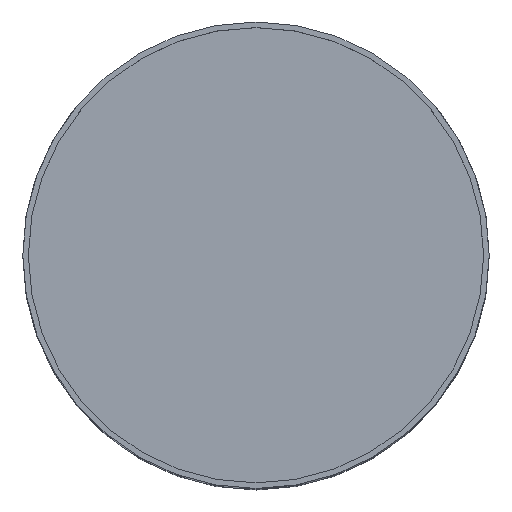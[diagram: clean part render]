
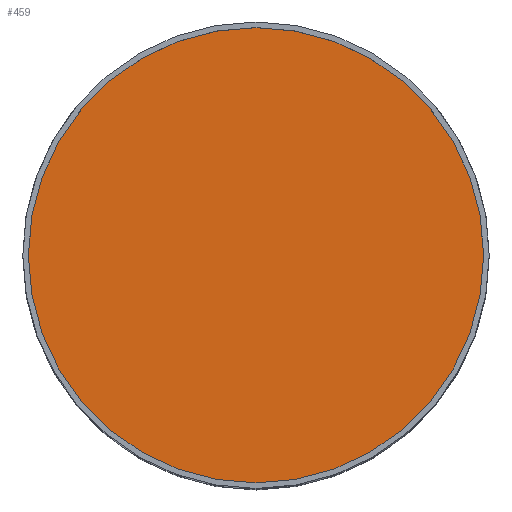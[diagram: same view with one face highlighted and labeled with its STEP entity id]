
A CAD part, top view. The second image highlights one B-rep face of the part: STEP entity #459.
In plain terms, the highlighted planar face has unit normal (0, 0, 1).
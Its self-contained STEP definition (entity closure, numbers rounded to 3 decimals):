
#415=PLANE('',#1641);
#434=CIRCLE('',#1640,12.2);
#459=ADVANCED_FACE('',(#525),#415,.F.);
#525=FACE_OUTER_BOUND('',#552,.T.);
#552=EDGE_LOOP('',(#643));
#643=ORIENTED_EDGE('',*,*,#1266,.F.);
#1061=VERTEX_POINT('',#1951);
#1266=EDGE_CURVE('',#1061,#1061,#434,.T.);
#1640=AXIS2_PLACEMENT_3D('',#1950,#1731,#1732);
#1641=AXIS2_PLACEMENT_3D('',#1952,#1733,#1734);
#1731=DIRECTION('',(0.,0.,-1.));
#1732=DIRECTION('',(0.,-1.,0.));
#1733=DIRECTION('',(0.,0.,-1.));
#1734=DIRECTION('',(0.,-1.,0.));
#1950=CARTESIAN_POINT('',(0.,0.,-2.));
#1951=CARTESIAN_POINT('',(0.,-12.2,-2.));
#1952=CARTESIAN_POINT('',(0.,0.,-2.));
